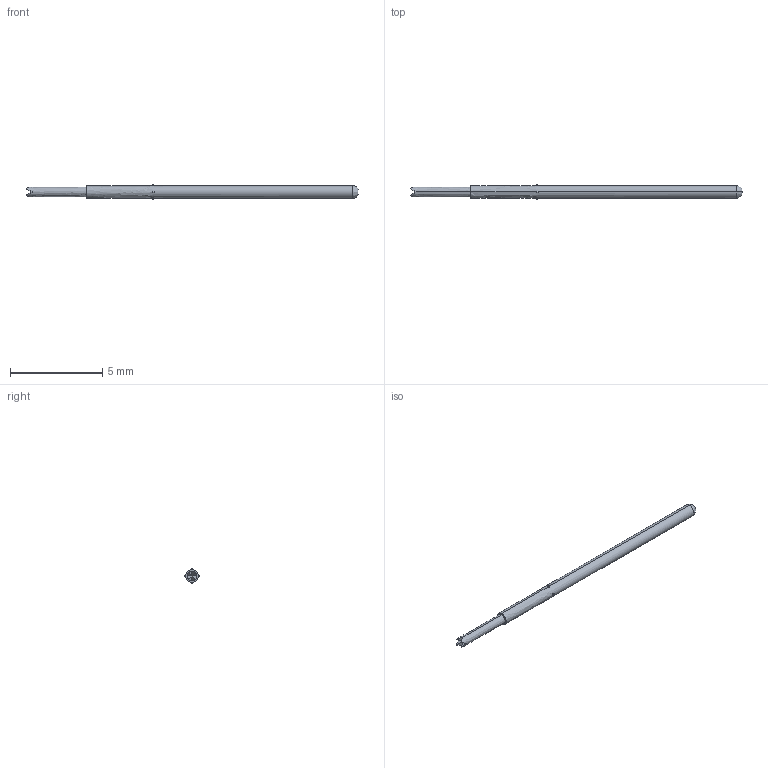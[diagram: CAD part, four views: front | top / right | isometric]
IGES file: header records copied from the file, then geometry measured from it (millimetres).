
Start section: SolidWorks IGES file using analytic representation for surfaces
Global section: file name: O:\PYLON\IGES FILES\P2662A\P2662A-1Q1S.IGS; native system: SolidWorks 2015; preprocessor: SolidWorks 2015; author: kgolden; date: 171019.090004; units: inch
Bounding box: 17.99 x 0.79 x 0.79 mm (x, y, z)
Surface area: 40.2 mm2 (no closed solid volume)
Topology: 0 solids, 0 shells, 26 faces, 222 edges, 206 vertices
Faces by surface type: revolution 14, bspline 12
